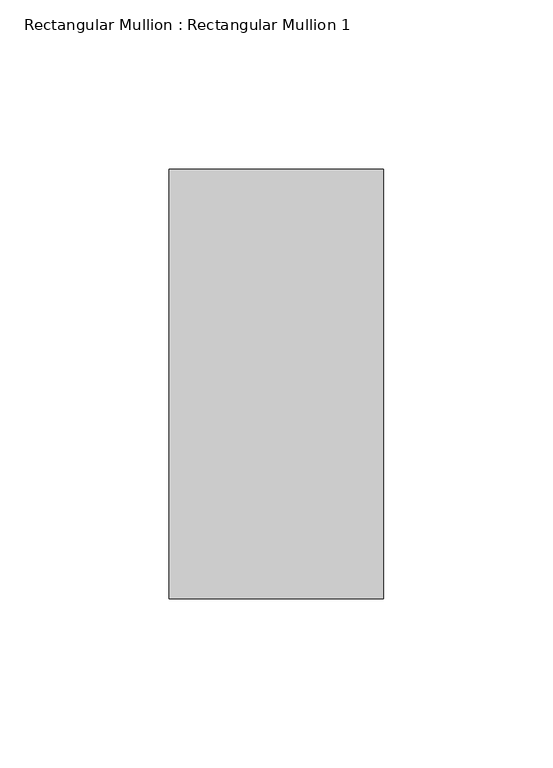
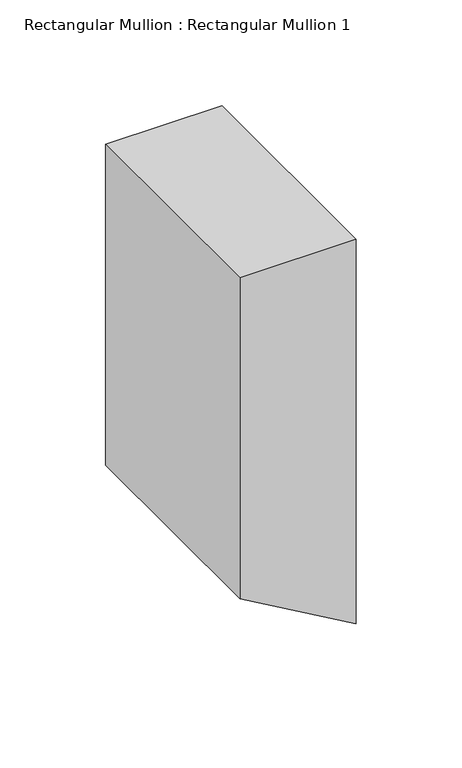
"""IFC4 building model written with IfcOpenShell, lengths in millimetres: member geometry, Rectangular Mullion : Rectangular Mullion 1."""

import ifcopenshell
import ifcopenshell.guid

model = None  # the IFC model being written
_history = None  # IfcOwnerHistory: only IFC2X3 demands one
_inside = {}  # id of a spatial element -> (the spatial element, [elements in it])
_under = {}  # id of a project, library or spatial element -> (it, [spatial elements below it])
_declared = {}  # id of a project -> (the project, [libraries it declares])
_typed = {}  # id of a type object -> (the type object, [elements of that type])
_made_of = {}  # id of a material, layer set ... -> (it, [elements and type objects made of it])


def new_model(schema):
    """Start an empty IFC model of exactly this schema.

    Asked for "IFC4X3", IfcOpenShell would pick the latest addendum, in which some entities
    have other attributes; the version numbers below select the first issue.
    IFC2X3 requires an IfcOwnerHistory on every rooted entity: one is made here for all.
    """
    global model, _history
    if schema == "IFC4X3":
        model = ifcopenshell.file(schema_version=(4, 3, 0, 0))
    else:
        model = ifcopenshell.file(schema=schema)
    _inside.clear()
    _under.clear()
    _declared.clear()
    _typed.clear()
    _made_of.clear()
    _history = None
    if model.schema == "IFC2X3":
        org = make("IfcOrganization", Name="unknown")
        user = make(
            "IfcPersonAndOrganization",
            ThePerson=make("IfcPerson", FamilyName="unknown"),
            TheOrganization=org,
        )
        app = make(
            "IfcApplication",
            ApplicationDeveloper=org,
            Version="unknown",
            ApplicationFullName="unknown",
            ApplicationIdentifier="unknown",
        )
        _history = make(
            "IfcOwnerHistory",
            OwningUser=user,
            OwningApplication=app,
            ChangeAction="ADDED",
            CreationDate=0,
        )
    return model


def make(cls, **values):
    """One entity of the class cls with the attributes given. An attribute that is None is left unset."""
    return model.create_entity(
        cls, **{name: value for name, value in values.items() if value is not None}
    )


def rooted(cls, **values):
    """An entity with a GlobalId (a new one), such as an element, a storey or a relation."""
    return make(cls, GlobalId=ifcopenshell.guid.new(), OwnerHistory=_history, **values)


def si_unit(unit_type, name, prefix=None):
    """IfcSIUnit, for example si_unit("LENGTHUNIT", "METRE", prefix="MILLI")."""
    return make("IfcSIUnit", UnitType=unit_type, Prefix=prefix, Name=name)


def assignment(units):
    """IfcUnitAssignment: the units of a project."""
    return None if units is None else make("IfcUnitAssignment", Units=units)


def point(xyz):
    """IfcCartesianPoint."""
    return None if xyz is None else make("IfcCartesianPoint", Coordinates=xyz)


def direction(xyz):
    """IfcDirection."""
    return None if xyz is None else make("IfcDirection", DirectionRatios=xyz)


def frame(location, z_axis=None, x_axis=None):
    """IfcAxis2Placement3D, a coordinate frame: its origin and axes. An axis left out is left unset."""
    return make(
        "IfcAxis2Placement3D",
        Location=point(location),
        Axis=direction(z_axis),
        RefDirection=direction(x_axis),
    )


def origin():
    """The frame at (0, 0, 0) with its axes left unset."""
    return frame((0.0, 0.0, 0.0))


def place(relative_to, where):
    """IfcLocalPlacement: puts the frame where relative to a parent placement (None: the world)."""
    return make(
        "IfcLocalPlacement", PlacementRelTo=relative_to, RelativePlacement=where
    )


def context(
    kind, dimensions, precision=None, world=None, true_north=None, identifier=None
):
    """IfcGeometricRepresentationContext, for example the 3D "Model" context."""
    return make(
        "IfcGeometricRepresentationContext",
        ContextIdentifier=identifier,
        ContextType=kind,
        CoordinateSpaceDimension=dimensions,
        Precision=precision,
        WorldCoordinateSystem=world,
        TrueNorth=true_north,
    )


def project(units=None, contexts=None):
    """IfcProject with its units and contexts."""
    return rooted(
        "IfcProject",
        Name="project",
        RepresentationContexts=contexts,
        UnitsInContext=assignment(units),
    )


def spatial(cls, under=None, at=None, **own):
    """A site, building, storey or space (cls), placed at a placement, below another one or the project."""
    s = rooted(cls, ObjectPlacement=at, **own)
    if under is not None:
        _under.setdefault(under.id(), (under, []))[1].append(s)
    return s


def polyline(points):
    """IfcPolyline through the points."""
    return make("IfcPolyline", Points=[point(p) for p in points])


def outline(outer, holes=None, kind="AREA"):
    """IfcArbitraryClosedProfileDef: a profile drawn as a closed curve; with holes, ...WithVoids."""
    if holes is None:
        return make("IfcArbitraryClosedProfileDef", ProfileType=kind, OuterCurve=outer)
    return make(
        "IfcArbitraryProfileDefWithVoids",
        ProfileType=kind,
        OuterCurve=outer,
        InnerCurves=holes,
    )


def extrude(swept, where, along, depth):
    """IfcExtrudedAreaSolid: the profile swept, set in the frame where, extruded along a direction by depth."""
    return make(
        "IfcExtrudedAreaSolid",
        SweptArea=swept,
        Position=where,
        ExtrudedDirection=direction(along),
        Depth=depth,
    )


def shape(context_of_items, identifier, shape_type, items):
    """IfcShapeRepresentation: the items that make up one representation, for example the "Body"."""
    return make(
        "IfcShapeRepresentation",
        ContextOfItems=context_of_items,
        RepresentationIdentifier=identifier,
        RepresentationType=shape_type,
        Items=items,
    )


def source(mapping_origin, context_of_items, identifier, shape_type, items):
    """IfcRepresentationMap: a shape defined once, which mapped items show again and again."""
    return make(
        "IfcRepresentationMap",
        MappingOrigin=mapping_origin,
        MappedRepresentation=shape(context_of_items, identifier, shape_type, items),
    )


def transform(
    local_origin,
    x_axis=None,
    y_axis=None,
    z_axis=None,
    scale=None,
    scale2=None,
    scale3=None,
    uniform=True,
):
    """IfcCartesianTransformationOperator3D, or its non-uniform kind. x_axis, y_axis, z_axis: its Axis1, 2, 3."""
    if uniform:
        return make(
            "IfcCartesianTransformationOperator3D",
            Axis1=direction(x_axis),
            Axis2=direction(y_axis),
            LocalOrigin=point(local_origin),
            Scale=scale,
            Axis3=direction(z_axis),
        )
    return make(
        "IfcCartesianTransformationOperator3DnonUniform",
        Axis1=direction(x_axis),
        Axis2=direction(y_axis),
        LocalOrigin=point(local_origin),
        Scale=scale,
        Axis3=direction(z_axis),
        Scale2=scale2,
        Scale3=scale3,
    )


def mapped(mapping_source, mapping_target):
    """IfcMappedItem: shows the shape of a source again, moved by a transform."""
    return make(
        "IfcMappedItem", MappingSource=mapping_source, MappingTarget=mapping_target
    )


def made_of(thing, what):
    """Note that an element or type object is made of a material, layer set ...; save() writes the relation."""
    if what is not None:
        _made_of.setdefault(what.id(), (what, []))[1].append(thing)
    return thing


def element(
    cls,
    number,
    at=None,
    inside=None,
    cuts=None,
    type_object=None,
    material=None,
    context=None,
    identifier="Body",
    shape_type=None,
    held_by="IfcProductDefinitionShape",
    body=None,
    shapes=None,
    **own,
):
    """One element of the class cls, such as IfcWall. Its Tag is "e" and its number.

    at: its placement. inside: the storey or other place that contains it. cuts: it is an
    opening in that element (IfcRelVoidsElement). A single representation is given by context,
    identifier, shape_type and body (its items); several are given by shapes. held_by: the class
    of the entity that holds the representations. save() writes the other relations.
    """
    e = rooted(cls, Tag="e%d" % number, ObjectPlacement=at, **own)
    if body is not None:
        shapes = [shape(context, identifier, shape_type, body)]
    if shapes is not None:
        e.Representation = make(held_by, Representations=shapes)
    if inside is not None:
        _inside.setdefault(inside.id(), (inside, []))[1].append(e)
    if cuts is not None:
        rooted(
            "IfcRelVoidsElement", RelatingBuildingElement=cuts, RelatedOpeningElement=e
        )
    if type_object is not None:
        _typed.setdefault(type_object.id(), (type_object, []))[1].append(e)
    return made_of(e, material)


def aggregate(whole, parts):
    """IfcRelAggregates: a whole, such as a stair, and the parts it consists of."""
    return rooted("IfcRelAggregates", RelatingObject=whole, RelatedObjects=parts)


def save(model, path):
    """Write the relations noted so far, then the file.

    IfcRelAggregates (storeys below a building ...), IfcRelContainedInSpatialStructure (elements
    in a storey), IfcRelDefinesByType, IfcRelAssociatesMaterial and IfcRelDeclares: one each for
    every whole, place, type object, material and project.
    """
    for whole, parts in _under.values():
        aggregate(whole, parts)
    for where, things in _inside.values():
        rooted(
            "IfcRelContainedInSpatialStructure",
            RelatedElements=things,
            RelatingStructure=where,
        )
    for kind, things in _typed.values():
        rooted("IfcRelDefinesByType", RelatedObjects=things, RelatingType=kind)
    for what, things in _made_of.values():
        rooted("IfcRelAssociatesMaterial", RelatedObjects=things, RelatingMaterial=what)
    for by, libraries in _declared.values():
        rooted("IfcRelDeclares", RelatingContext=by, RelatedDefinitions=libraries)
    model.write(path)


def rectangular_mullion_rectangular_mullion_1_419b8bb5(model_context):
    return source(origin(), model_context, "Body", "SweptSolid", [
        extrude(outline(polyline([(0.0, 0.0), (0.0, -63.5), (-185.338873, -63.5), (-222.0006151, 0.0), (0.0, 0.0)])), frame((0.0, -63.5, 0.0), z_axis=(0.0, 1.0, 0.0), x_axis=(0.0, 0.0, 1.0)), (0.0, 0.0, 1.0), 127.0),
    ])


if __name__ == "__main__":
    model = new_model("IFC4")
    model_context = context("Model", 3, world=origin())
    ifc_project = project(units=[si_unit("LENGTHUNIT", "METRE", prefix="MILLI")], contexts=[model_context])
    site = spatial("IfcSite", under=ifc_project)
    building = spatial("IfcBuilding", under=site)
    placement = place(None, origin())
    rectangular_mullion_rectangular_mullion_1_shape = rectangular_mullion_rectangular_mullion_1_419b8bb5(model_context)
    element("IfcMember", 1, ObjectType="Rectangular Mullion : Rectangular Mullion 1", at=placement, inside=building, context=model_context, shape_type="MappedRepresentation", body=[
        mapped(rectangular_mullion_rectangular_mullion_1_shape, transform((0.0, 0.0, 0.0), x_axis=(1.0, 0.0, 0.0), y_axis=(0.0, 1.0, 0.0), z_axis=(0.0, 0.0, 1.0))),
    ])
    save(model, "model.ifc")
